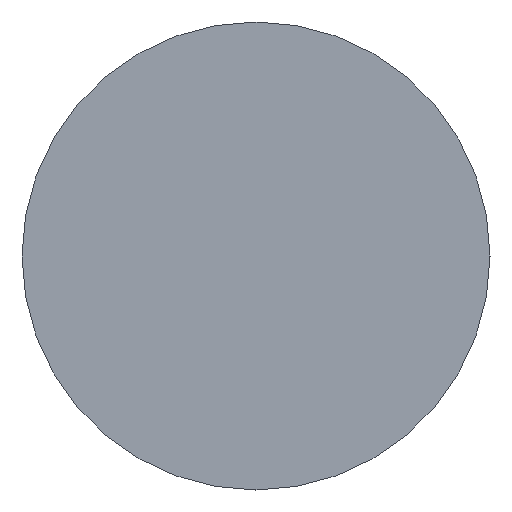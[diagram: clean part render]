
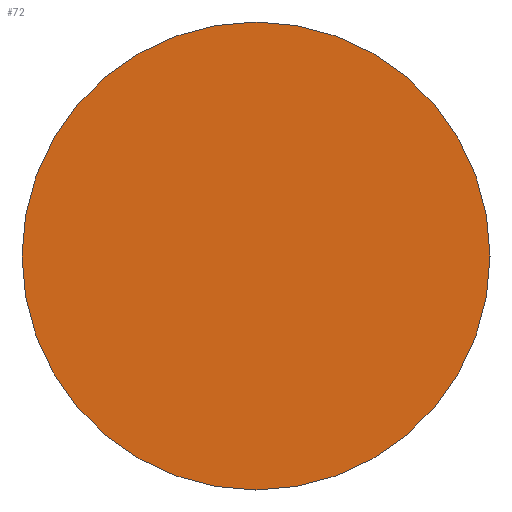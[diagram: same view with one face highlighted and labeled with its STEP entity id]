
A CAD part, left-side view. The second image highlights one B-rep face of the part: STEP entity #72.
In plain terms, the highlighted planar face has unit normal (-1, 0, 0).
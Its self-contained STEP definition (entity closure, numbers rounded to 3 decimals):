
#18 = EDGE_CURVE ( 'NONE', #117, #74, #255, .T. ) ;
#72 = ADVANCED_FACE ( 'NONE', ( #284 ), #286, .F. ) ;
#74 = VERTEX_POINT ( 'NONE', #292 ) ;
#84 = ORIENTED_EDGE ( 'NONE', *, *, #89, .T. ) ;
#89 = EDGE_CURVE ( 'NONE', #74, #117, #359, .T. ) ;
#117 = VERTEX_POINT ( 'NONE', #144 ) ;
#126 = ORIENTED_EDGE ( 'NONE', *, *, #18, .T. ) ;
#144 = CARTESIAN_POINT ( 'NONE',  ( 0., 0., 15. ) ) ;
#255 = CIRCLE ( 'NONE', #256, 15. ) ;
#256 = AXIS2_PLACEMENT_3D ( 'NONE', #257, #258, #259 ) ;
#257 = CARTESIAN_POINT ( 'NONE',  ( 0., 0., 0. ) ) ;
#258 = DIRECTION ( 'NONE',  ( -1., 0., 0. ) ) ;
#259 = DIRECTION ( 'NONE',  ( 0., 0., 1. ) ) ;
#284 = FACE_OUTER_BOUND ( 'NONE', #541, .T. ) ;
#286 = PLANE ( 'NONE',  #287 ) ;
#287 = AXIS2_PLACEMENT_3D ( 'NONE', #288, #289, #290 ) ;
#288 = CARTESIAN_POINT ( 'NONE',  ( 0., 15., 0. ) ) ;
#289 = DIRECTION ( 'NONE',  ( 1., 0., 0. ) ) ;
#290 = DIRECTION ( 'NONE',  ( 0., 0., -1. ) ) ;
#292 = CARTESIAN_POINT ( 'NONE',  ( 0., 0., -15. ) ) ;
#359 = CIRCLE ( 'NONE', #360, 15. ) ;
#360 = AXIS2_PLACEMENT_3D ( 'NONE', #361, #362, #363 ) ;
#361 = CARTESIAN_POINT ( 'NONE',  ( 0., 0., 0. ) ) ;
#362 = DIRECTION ( 'NONE',  ( -1., 0., 0. ) ) ;
#363 = DIRECTION ( 'NONE',  ( 0., 0., 1. ) ) ;
#541 = EDGE_LOOP ( 'NONE', ( #126, #84 ) ) ;
